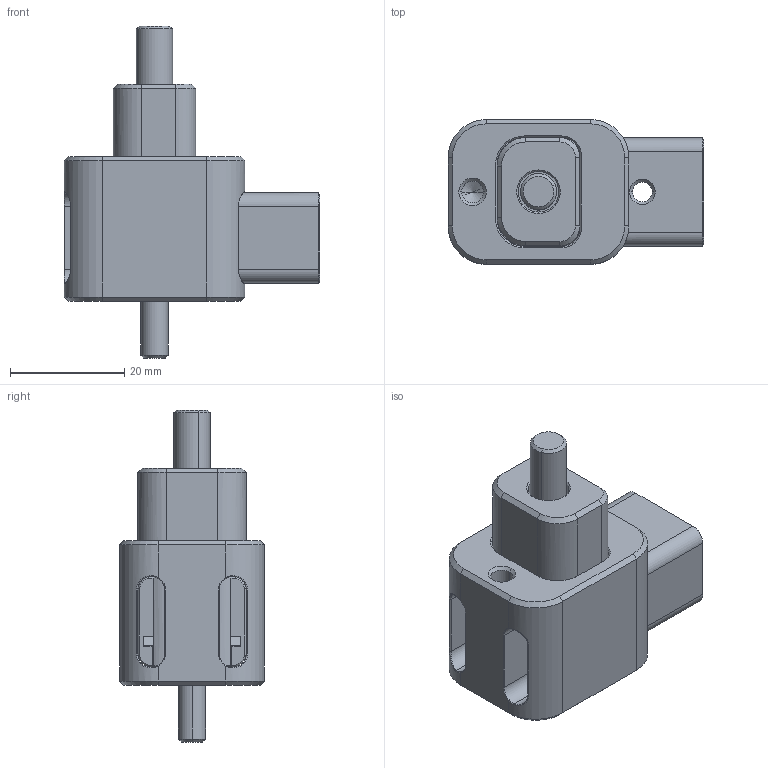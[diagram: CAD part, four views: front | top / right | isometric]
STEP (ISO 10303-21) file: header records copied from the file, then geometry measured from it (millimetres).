
FILE_DESCRIPTION (( 'STEP AP203' ), '1' );
FILE_NAME ('CA-200.STEP', '2011-07-26T20:59:24', ( '' ), ( '' ), 'SwSTEP 2.0', 'SolidWorks 2010', '' );
FILE_SCHEMA (( 'CONFIG_CONTROL_DESIGN' ));
Length unit declared in the file: inch
Products named in the file (6): 10-24 LHCS; CA-200; CA-100-H; CA-100-S; CA-200-D; 1_4-20X1.5
Assembly tree (5 placements, depth 2):
  CA-200
    1_4-20X1.5
    10-24 LHCS
    CA-200-D
    CA-100-S
    CA-100-H
Bounding box: 44.88 x 25.37 x 58.22 mm (x, y, z)
Volume: 22413.2 mm3; surface area: 14549.2 mm2
Topology: 5 solids, 5 shells, 314 faces, 771 edges, 466 vertices
Faces by surface type: plane 150, cylinder 78, cone 52, torus 18, bspline 16
Entity records: 12078 total; most frequent: CARTESIAN_POINT 4043, DIRECTION 1562, ORIENTED_EDGE 1534, EDGE_CURVE 767, AXIS2_PLACEMENT_3D 541, VECTOR 480, LINE 480, VERTEX_POINT 466
